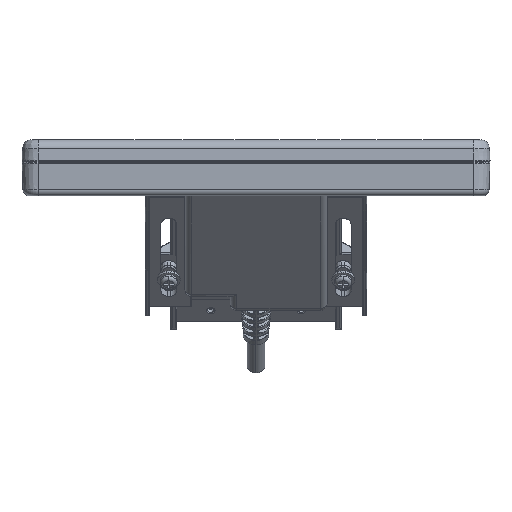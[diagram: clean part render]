
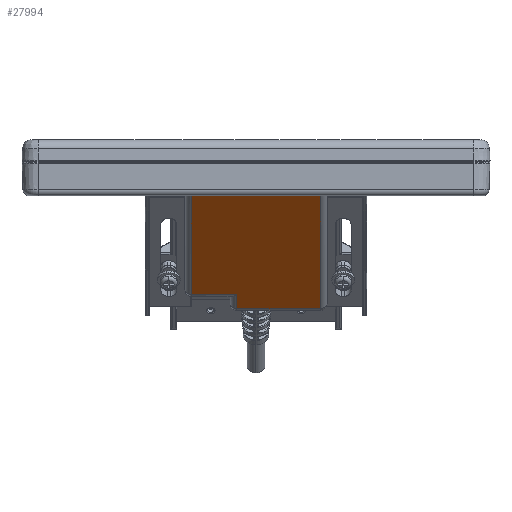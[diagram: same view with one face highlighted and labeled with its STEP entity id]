
A CAD part, front view. The second image highlights one B-rep face of the part: STEP entity #27994.
In plain terms, the highlighted planar face has unit normal (0, -0.707, -0.707).
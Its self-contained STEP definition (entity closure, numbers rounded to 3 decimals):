
#3899=DIRECTION('',(1.,0.,0.));
#3900=VECTOR('',#3899,40.);
#3901=CARTESIAN_POINT('',(-20.,-5.784,-10.7));
#3902=LINE('',#3901,#3900);
#3903=DIRECTION('',(0.,0.707,-0.707));
#3904=VECTOR('',#3903,43.184);
#3905=CARTESIAN_POINT('',(-20.,-5.784,-10.7));
#3906=LINE('',#3905,#3904);
#3930=DIRECTION('',(1.,0.,0.));
#3931=VECTOR('',#3930,14.);
#3932=CARTESIAN_POINT('',(-20.,24.751,-41.236));
#3933=LINE('',#3932,#3931);
#3938=DIRECTION('',(0.,0.707,-0.707));
#3939=VECTOR('',#3938,6.2);
#3940=CARTESIAN_POINT('',(-6.,24.751,
-41.236));
#3941=LINE('',#3940,#3939);
#3969=DIRECTION('',(1.,0.,0.));
#3970=VECTOR('',#3969,26.);
#3971=CARTESIAN_POINT('',(-6.,29.135,
-45.62));
#3972=LINE('',#3971,#3970);
#4014=DIRECTION('',(0.,-0.707,0.707));
#4015=VECTOR('',#4014,49.384);
#4016=CARTESIAN_POINT('',(20.,29.135,-45.62));
#4017=LINE('',#4016,#4015);
#19153=CARTESIAN_POINT('',(-20.,-5.784,-10.7));
#19154=CARTESIAN_POINT('',(20.,-5.784,-10.7));
#19155=VERTEX_POINT('',#19153);
#19156=VERTEX_POINT('',#19154);
#19157=CARTESIAN_POINT('',(-20.,24.751,-41.236));
#19158=VERTEX_POINT('',#19157);
#19164=CARTESIAN_POINT('',(-6.,24.751,
-41.236));
#19165=VERTEX_POINT('',#19164);
#19168=CARTESIAN_POINT('',(-6.,29.135,
-45.62));
#19169=VERTEX_POINT('',#19168);
#19175=CARTESIAN_POINT('',(20.,29.135,
-45.62));
#19176=VERTEX_POINT('',#19175);
#27976=CARTESIAN_POINT('',(0.,11.676,
-28.16));
#27977=DIRECTION('',(0.,0.707,0.707));
#27978=DIRECTION('',(0.,0.707,-0.707));
#27979=AXIS2_PLACEMENT_3D('',#27976,#27977,#27978);
#27980=PLANE('',#27979);
#27982=ORIENTED_EDGE('',*,*,#27981,.F.);
#27983=ORIENTED_EDGE('',*,*,#27914,.T.);
#27985=ORIENTED_EDGE('',*,*,#27984,.F.);
#27987=ORIENTED_EDGE('',*,*,#27986,.F.);
#27989=ORIENTED_EDGE('',*,*,#27988,.F.);
#27991=ORIENTED_EDGE('',*,*,#27990,.F.);
#27992=EDGE_LOOP('',(#27982,#27983,#27985,#27987,#27989,#27991));
#27993=FACE_OUTER_BOUND('',#27992,.F.);
#27994=ADVANCED_FACE('',(#27993),#27980,.F.);
#27914=EDGE_CURVE('',#19155,#19156,#3902,.T.);
#27981=EDGE_CURVE('',#19155,#19158,#3906,.T.);
#27984=EDGE_CURVE('',#19176,#19156,#4017,.T.);
#27986=EDGE_CURVE('',#19169,#19176,#3972,.T.);
#27988=EDGE_CURVE('',#19165,#19169,#3941,.T.);
#27990=EDGE_CURVE('',#19158,#19165,#3933,.T.);
